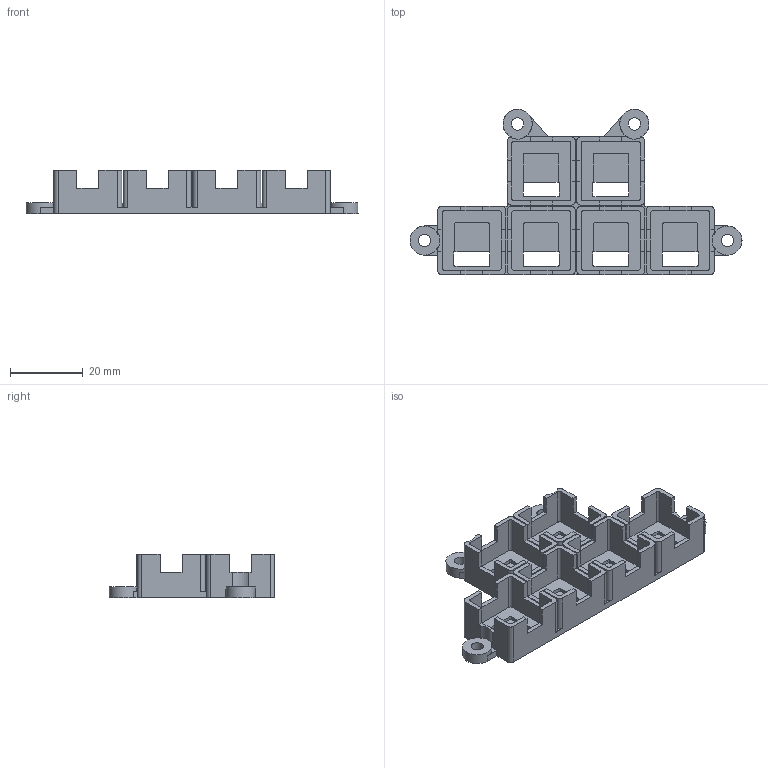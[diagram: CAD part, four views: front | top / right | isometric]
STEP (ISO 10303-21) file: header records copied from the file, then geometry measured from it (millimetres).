
FILE_DESCRIPTION(('Open CASCADE Model'),'2;1');
FILE_NAME('Open CASCADE Shape Model','2026-09-15T22:36:37',('Author'),( 'Open CASCADE'),'Open CASCADE STEP processor 7.9','Open CASCADE 7.9' ,'Unknown');
FILE_SCHEMA(('AUTOMOTIVE_DESIGN { 1 0 10303 214 1 1 1 1 }'));
Length unit declared in the file: millimetre
Products named in the file (1): Open CASCADE STEP translator 7.9 6
Bounding box: 91 x 45.32 x 12 mm (x, y, z)
Volume: 7683.2 mm3; surface area: 12498.1 mm2
Topology: 1 solids, 1 shells, 314 faces, 936 edges, 624 vertices
Faces by surface type: plane 218, cylinder 96
Full cylindrical faces by diameter (mm): 3.4 x4
Entity records: 22898 total; most frequent: CARTESIAN_POINT 4224, DIRECTION 3522, LINE 2313, VECTOR 2313, ORIENTED_EDGE 1872, PCURVE 1872, DEFINITIONAL_REPRESENTATION 1872, EDGE_CURVE 936
